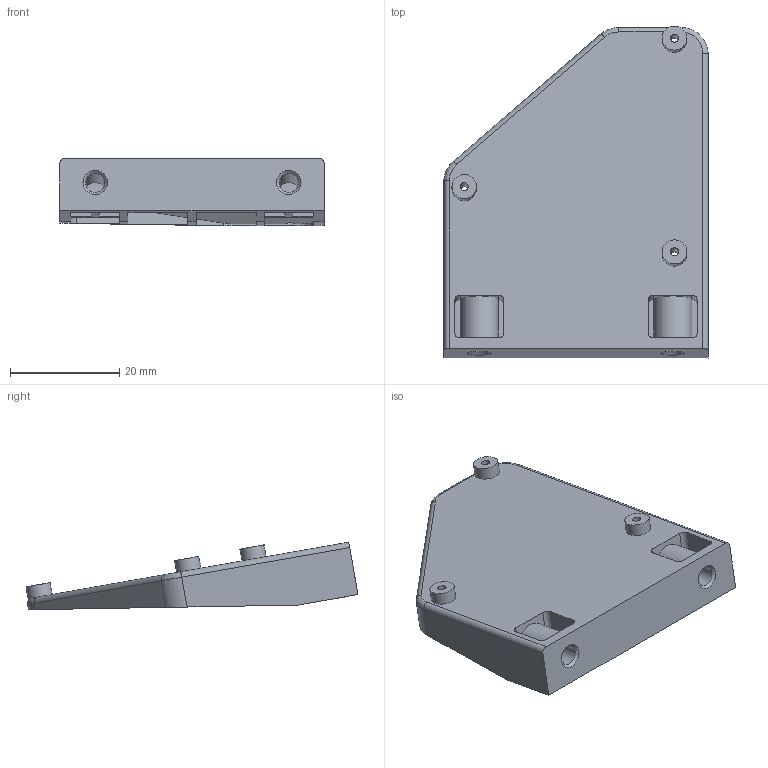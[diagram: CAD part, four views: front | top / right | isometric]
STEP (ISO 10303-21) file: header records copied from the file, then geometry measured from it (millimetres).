
FILE_DESCRIPTION(/* description */ ('STEP AP242 Edition 2','CAx-IF Rec.Pracs.---Representation and Presentation of Product Manufacturing Information (PMI)---4.0---2014-10-13','CAx-IF Rec.Pracs.---3D Tessellated Geometry---0.4---2014-09-14','2;1','CAx-IF Rec.Pracs.---User Defined Attributes---1.5---2016-08-15'),/* implementation_level */ '2;1');
FILE_NAME(/* name */ 'Assy_ForMFG - KD-H-104X_Mic_Hldr',/* time_stamp */ '2026-05-15T19:56:46Z',/* author */ (''),/* organization */ (''),/* preprocessor_version */ 'ST-DEVELOPER v20',/* originating_system */ 'ONSHAPE BY PTC INC, 1.215',/* authorisation */ ' ');
FILE_SCHEMA (('AP242_MANAGED_MODEL_BASED_3D_ENGINEERING_MIM_LF { 1 0 10303 442 3 1 4 }'));
Length unit declared in the file: metre
Products named in the file (1): KD-H-104X_Mic_Hldr
Bounding box: 48.5 x 60.89 x 12.39 mm (x, y, z)
Volume: 8439.3 mm3; surface area: 9236.7 mm2
Topology: 1 solids, 1 shells, 100 faces, 269 edges, 176 vertices
Faces by surface type: plane 63, cylinder 32, torus 3, cone 2
Full cylindrical faces by diameter (mm): 1.5 x3, 3.5 x2, 4.5 x3
Entity records: 3042 total; most frequent: CARTESIAN_POINT 531, DIRECTION 521, ORIENTED_EDGE 502, EDGE_CURVE 251, LINE 179, VECTOR 179, AXIS2_PLACEMENT_3D 171, VERTEX_POINT 168
